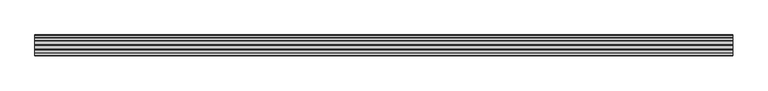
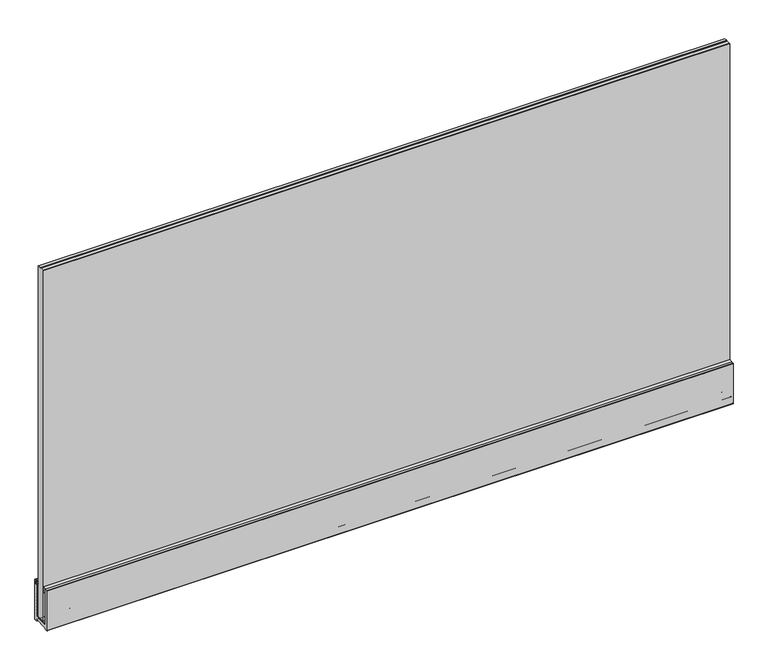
"""IFC4 building model written with IfcOpenShell, lengths in millimetres: railing geometry, Extrusal-F100-Multidões."""

from ifc_helpers import new_model, si_unit, point, frame, frame_2d, origin, place, context, project, spatial, polyline, circle_curve, trimmed, segment, composite_curve, outline, extrude, source, transform, mapped, element, save


def railing_e39ed729(model_context):
    return source(origin(), model_context, "Body", "SweptSolid", [
        extrude(outline(polyline([(5729.5907209, 19.75), (5729.5907209, 1099.0), (5730.5907209, 1100.0), (5740.5907209, 1100.0), (5741.5907209, 1099.0), (5743.1407209, 1099.0), (5744.1407209, 1100.0), (5754.0907209, 1100.0), (5755.0907209, 1099.0), (5755.0907209, 19.75), (5754.0907209, 18.75), (5744.1407209, 18.75), (5743.1407209, 19.75), (5741.5907209, 19.75), (5740.5907209, 18.75), (5730.5907209, 18.75), (5729.5907209, 19.75)])), frame((-6622.4840845, 0.0, 0.0), z_axis=(1.0, 0.0, 0.0), x_axis=(0.0, 1.0, 0.0)), (0.0, 0.0, 1.0), 2000.0),
        extrude(outline(composite_curve([segment(trimmed(circle_curve(frame_2d((5771.3407209, 1.0)), 1.0), [point((5772.3407209, 1.0))], [point((5771.3407209, 0.0))], False, "CARTESIAN"), True, "CONTINUOUS"), segment(polyline([(5771.3407209, 0.0), (5764.3407209, 0.0)]), True, "CONTINUOUS"), segment(trimmed(circle_curve(frame_2d((5764.3407209, 0.5)), 0.5), [point((5764.3407209, 0.0))], [point((5763.8407209, 0.5))], False, "CARTESIAN"), True, "CONTINUOUS"), segment(polyline([(5763.8407209, 0.5), (5763.8407209, 4.0)]), True, "CONTINUOUS"), segment(trimmed(circle_curve(frame_2d((5762.8407209, 4.0)), 1.0), [point((5763.8407209, 4.0))], [point((5762.8407209, 5.0))], True, "CARTESIAN"), True, "CONTINUOUS"), segment(polyline([(5762.8407209, 5.0), (5721.8407209, 5.0)]), True, "CONTINUOUS"), segment(trimmed(circle_curve(frame_2d((5721.8407209, 4.0)), 1.0), [point((5721.8407209, 5.0))], [point((5720.8407209, 4.0))], True, "CARTESIAN"), True, "CONTINUOUS"), segment(polyline([(5720.8407209, 4.0), (5720.8407209, 0.5)]), True, "CONTINUOUS"), segment(trimmed(circle_curve(frame_2d((5720.3407209, 0.5)), 0.5), [point((5720.8407209, 0.5))], [point((5720.3407209, 0.0))], False, "CARTESIAN"), True, "CONTINUOUS"), segment(polyline([(5720.3407209, 0.0), (5713.3407209, 0.0)]), True, "CONTINUOUS"), segment(trimmed(circle_curve(frame_2d((5713.3407209, 1.0)), 1.0), [point((5713.3407209, 0.0))], [point((5712.3407209, 1.0))], False, "CARTESIAN"), True, "CONTINUOUS"), segment(polyline([(5712.3407209, 1.0), (5712.3407209, 123.0)]), True, "CONTINUOUS"), segment(trimmed(circle_curve(frame_2d((5713.3407209, 123.0)), 1.0), [point((5712.3407209, 123.0))], [point((5713.3407209, 124.0))], False, "CARTESIAN"), True, "CONTINUOUS"), segment(polyline([(5713.3407209, 124.0), (5721.3407209, 124.0), (5721.3407209, 15.5)]), True, "CONTINUOUS"), segment(trimmed(circle_curve(frame_2d((5721.8407209, 15.5)), 0.5), [point((5721.3407209, 15.5))], [point((5721.8407209, 15.0))], True, "CARTESIAN"), True, "CONTINUOUS"), segment(polyline([(5721.8407209, 15.0), (5762.8407209, 15.0)]), True, "CONTINUOUS"), segment(trimmed(circle_curve(frame_2d((5762.8407209, 15.5)), 0.5), [point((5762.8407209, 15.0))], [point((5763.3407209, 15.5))], True, "CARTESIAN"), True, "CONTINUOUS"), segment(polyline([(5763.3407209, 15.5), (5763.3407209, 114.25)]), True, "CONTINUOUS"), segment(trimmed(circle_curve(frame_2d((5763.8407209, 114.25)), 0.5), [point((5763.3407209, 114.25))], [point((5764.3407209, 114.25))], False, "CARTESIAN"), True, "CONTINUOUS"), segment(polyline([(5764.3407209, 114.25), (5764.3407209, 112.55), (5767.1407209, 112.55), (5767.1407209, 121.45), (5764.3407209, 121.45), (5764.3407209, 119.75)]), True, "CONTINUOUS"), segment(trimmed(circle_curve(frame_2d((5763.8407209, 119.75)), 0.5), [point((5764.3407209, 119.75))], [point((5763.3407209, 119.75))], False, "CARTESIAN"), True, "CONTINUOUS"), segment(polyline([(5763.3407209, 119.75), (5763.3407209, 123.5)]), True, "CONTINUOUS"), segment(trimmed(circle_curve(frame_2d((5763.8407209, 123.5)), 0.5), [point((5763.3407209, 123.5))], [point((5763.8407209, 124.0))], False, "CARTESIAN"), True, "CONTINUOUS"), segment(polyline([(5763.8407209, 124.0), (5771.3407209, 124.0)]), True, "CONTINUOUS"), segment(trimmed(circle_curve(frame_2d((5771.3407209, 123.0)), 1.0), [point((5771.3407209, 124.0))], [point((5772.3407209, 123.0))], False, "CARTESIAN"), True, "CONTINUOUS"), segment(polyline([(5772.3407209, 123.0), (5772.3407209, 1.0)]), True, "CONTINUOUS")], self_intersect=False)), frame((-6622.4840845, 0.0, 0.0), z_axis=(1.0, 0.0, 0.0), x_axis=(0.0, 1.0, 0.0)), (0.0, 0.0, 1.0), 2000.0),
        extrude(outline(composite_curve([segment(polyline([(5756.06572, 18.2499983), (5756.06572, 81.1999983), (5757.8143268, 84.6972119)]), True, "CONTINUOUS"), segment(trimmed(circle_curve(frame_2d((5758.708754, 84.2499983)), 1.0), [point((5757.8143268, 84.6972119))], [point((5758.708754, 85.2499983))], False, "CARTESIAN"), True, "CONTINUOUS"), segment(polyline([(5758.708754, 85.2499983), (5762.09072, 85.2499983)]), True, "CONTINUOUS"), segment(trimmed(circle_curve(frame_2d((5762.09072, 84.2499983)), 1.0), [point((5762.09072, 85.2499983))], [point((5763.09072, 84.2499983))], False, "CARTESIAN"), True, "CONTINUOUS"), segment(polyline([(5763.09072, 84.2499983), (5763.09072, 81.2499983)]), True, "CONTINUOUS"), segment(trimmed(circle_curve(frame_2d((5762.09072, 81.2499983)), 1.0), [point((5763.09072, 81.2499983))], [point((5762.09072, 80.2499983))], False, "CARTESIAN"), True, "CONTINUOUS"), segment(polyline([(5762.09072, 80.2499983), (5760.09072, 80.2499983), (5760.09072, 75.2499983), (5762.09072, 75.2499983)]), True, "CONTINUOUS"), segment(trimmed(circle_curve(frame_2d((5762.09072, 74.2499983)), 1.0), [point((5762.09072, 75.2499983))], [point((5763.09072, 74.2499983))], False, "CARTESIAN"), True, "CONTINUOUS"), segment(polyline([(5763.09072, 74.2499983), (5763.09072, 71.2499983)]), True, "CONTINUOUS"), segment(trimmed(circle_curve(frame_2d((5762.09072, 71.2499983)), 1.0), [point((5763.09072, 71.2499983))], [point((5762.09072, 70.2499983))], False, "CARTESIAN"), True, "CONTINUOUS"), segment(polyline([(5762.09072, 70.2499983), (5760.09072, 70.2499983), (5760.09072, 65.2499983), (5762.09072, 65.2499983)]), True, "CONTINUOUS"), segment(trimmed(circle_curve(frame_2d((5762.09072, 64.2499983)), 1.0), [point((5762.09072, 65.2499983))], [point((5763.09072, 64.2499983))], False, "CARTESIAN"), True, "CONTINUOUS"), segment(polyline([(5763.09072, 64.2499983), (5763.09072, 61.2499983)]), True, "CONTINUOUS"), segment(trimmed(circle_curve(frame_2d((5762.09072, 61.2499983)), 1.0), [point((5763.09072, 61.2499983))], [point((5762.09072, 60.2499983))], False, "CARTESIAN"), True, "CONTINUOUS"), segment(polyline([(5762.09072, 60.2499983), (5760.09072, 60.2499983), (5760.09072, 55.2499983), (5762.09072, 55.2499983)]), True, "CONTINUOUS"), segment(trimmed(circle_curve(frame_2d((5762.09072, 54.2499983)), 1.0), [point((5762.09072, 55.2499983))], [point((5763.09072, 54.2499983))], False, "CARTESIAN"), True, "CONTINUOUS"), segment(polyline([(5763.09072, 54.2499983), (5763.09072, 51.2499983)]), True, "CONTINUOUS"), segment(trimmed(circle_curve(frame_2d((5762.09072, 51.2499983)), 1.0), [point((5763.09072, 51.2499983))], [point((5762.09072, 50.2499983))], False, "CARTESIAN"), True, "CONTINUOUS"), segment(polyline([(5762.09072, 50.2499983), (5760.09072, 50.2499983), (5760.09072, 45.2499983), (5762.09072, 45.2499983)]), True, "CONTINUOUS"), segment(trimmed(circle_curve(frame_2d((5762.09072, 44.2499983)), 1.0), [point((5762.09072, 45.2499983))], [point((5763.09072, 44.2499983))], False, "CARTESIAN"), True, "CONTINUOUS"), segment(polyline([(5763.09072, 44.2499983), (5763.09072, 41.2499983)]), True, "CONTINUOUS"), segment(trimmed(circle_curve(frame_2d((5762.09072, 41.2499983)), 1.0), [point((5763.09072, 41.2499983))], [point((5762.09072, 40.2499983))], False, "CARTESIAN"), True, "CONTINUOUS"), segment(polyline([(5762.09072, 40.2499983), (5760.09072, 40.2499983), (5760.09072, 35.2499983), (5762.09072, 35.2499983)]), True, "CONTINUOUS"), segment(trimmed(circle_curve(frame_2d((5762.09072, 34.2499983)), 1.0), [point((5762.09072, 35.2499983))], [point((5763.09072, 34.2499983))], False, "CARTESIAN"), True, "CONTINUOUS"), segment(polyline([(5763.09072, 34.2499983), (5763.09072, 31.2499983)]), True, "CONTINUOUS"), segment(trimmed(circle_curve(frame_2d((5762.09072, 31.2499983)), 1.0), [point((5763.09072, 31.2499983))], [point((5762.09072, 30.2499983))], False, "CARTESIAN"), True, "CONTINUOUS"), segment(polyline([(5762.09072, 30.2499983), (5760.09072, 30.2499983), (5760.09072, 25.2499983), (5762.09072, 25.2499983)]), True, "CONTINUOUS"), segment(trimmed(circle_curve(frame_2d((5762.09072, 24.2499983)), 1.0), [point((5762.09072, 25.2499983))], [point((5763.09072, 24.2499983))], False, "CARTESIAN"), True, "CONTINUOUS"), segment(polyline([(5763.09072, 24.2499983), (5763.09072, 16.2499983)]), True, "CONTINUOUS"), segment(trimmed(circle_curve(frame_2d((5762.09072, 16.2499983)), 1.0), [point((5763.09072, 16.2499983))], [point((5762.09072, 15.2499983))], False, "CARTESIAN"), True, "CONTINUOUS"), segment(polyline([(5762.09072, 15.2499983), (5722.59072, 15.2499983)]), True, "CONTINUOUS"), segment(trimmed(circle_curve(frame_2d((5722.59072, 16.2499983)), 1.0), [point((5722.59072, 15.2499983))], [point((5721.59072, 16.2499983))], False, "CARTESIAN"), True, "CONTINUOUS"), segment(polyline([(5721.59072, 16.2499983), (5721.59072, 17.2499983)]), True, "CONTINUOUS"), segment(trimmed(circle_curve(frame_2d((5722.59072, 17.2499983)), 1.0), [point((5721.59072, 17.2499983))], [point((5722.59072, 18.2499983))], False, "CARTESIAN"), True, "CONTINUOUS"), segment(polyline([(5722.59072, 18.2499983), (5756.06572, 18.2499983)]), True, "CONTINUOUS")], self_intersect=False)), frame((-6622.4840845, 0.0, 0.0), z_axis=(1.0, 0.0, 0.0), x_axis=(0.0, 1.0, 0.0)), (0.0, 0.0, 1.0), 2000.0),
        extrude(outline(composite_curve([segment(polyline([(5763.3407209, 124.0), (5763.3407209, 109.7815722), (5757.44072, 108.8815407), (5755.94072, 110.9673162), (5756.94072, 112.1895362), (5755.94072, 113.5228695), (5756.94072, 114.7450895), (5755.94072, 116.0784228), (5756.94072, 117.3006428), (5755.94072, 118.6339762), (5756.94072, 119.8561962), (5755.94072, 121.1895295), (5756.94072, 122.5479161), (5755.44072, 124.3112017), (5755.44072, 126.1660696)]), True, "CONTINUOUS"), segment(trimmed(circle_curve(frame_2d((5754.5648128, 87.8576514)), 38.3184305), [point((5755.44072, 126.1660696))], [point((5763.1537692, 125.2010838))], False, "CARTESIAN"), True, "CONTINUOUS"), segment(trimmed(circle_curve(frame_2d((5760.9123005, 115.4555301)), 10.0), [point((5763.1537692, 125.2010838))], [point((5764.3336403, 124.8520418))], False, "CARTESIAN"), True, "CONTINUOUS"), segment(trimmed(circle_curve(frame_2d((5755.1757563, 99.7004438)), 26.7669521), [point((5764.3336403, 124.8520418))], [point((5766.400786, 124.0))], False, "CARTESIAN"), True, "CONTINUOUS"), segment(polyline([(5766.400786, 124.0), (5763.3407209, 124.0)]), True, "CONTINUOUS")], self_intersect=False)), frame((-6622.4840845, 0.0, 0.0), z_axis=(1.0, 0.0, 0.0), x_axis=(0.0, 1.0, 0.0)), (0.0, 0.0, 1.0), 2000.0),
        extrude(outline(composite_curve([segment(polyline([(5720.3407209, 124.0), (5719.3342495, 124.0)]), True, "CONTINUOUS"), segment(trimmed(circle_curve(frame_2d((5729.9337142, 98.9230943)), 27.2249858), [point((5719.3342495, 124.0))], [point((5731.44072, 126.1063389))], False, "CARTESIAN"), True, "CONTINUOUS"), segment(polyline([(5731.44072, 126.1063389), (5731.44072, 124.2612017), (5729.8082955, 122.4979161), (5730.9197048, 121.1395295), (5729.9197048, 119.8061962), (5730.9197048, 118.5839762), (5729.9197048, 117.2506428), (5730.9197048, 116.0284228), (5729.9197048, 114.6950895), (5730.9197048, 113.4728695), (5729.9197048, 112.1395362), (5730.9197048, 110.9173162), (5729.1331509, 108.5352444), (5720.3407209, 109.917316), (5720.3407209, 124.0)]), True, "CONTINUOUS")], self_intersect=False)), frame((-6622.4840845, 0.0, 0.0), z_axis=(1.0, 0.0, 0.0), x_axis=(0.0, 1.0, 0.0)), (0.0, 0.0, 1.0), 2000.0),
    ])


if __name__ == "__main__":
    model = new_model("IFC4")
    model_context = context("Model", 3, world=origin())
    ifc_project = project(units=[si_unit("LENGTHUNIT", "METRE", prefix="MILLI")], contexts=[model_context])
    site = spatial("IfcSite", under=ifc_project)
    building = spatial("IfcBuilding", under=site)
    placement = place(None, origin())
    railing_shape = railing_e39ed729(model_context)
    element("IfcRailing", 1, ObjectType="Extrusal-F100-Multidões", at=placement, inside=building, context=model_context, shape_type="MappedRepresentation", body=[
        mapped(railing_shape, transform((0.0, 0.0, 0.0), x_axis=(1.0, 0.0, 0.0), y_axis=(0.0, 1.0, 0.0), z_axis=(0.0, 0.0, 1.0))),
    ])
    save(model, "model.ifc")
